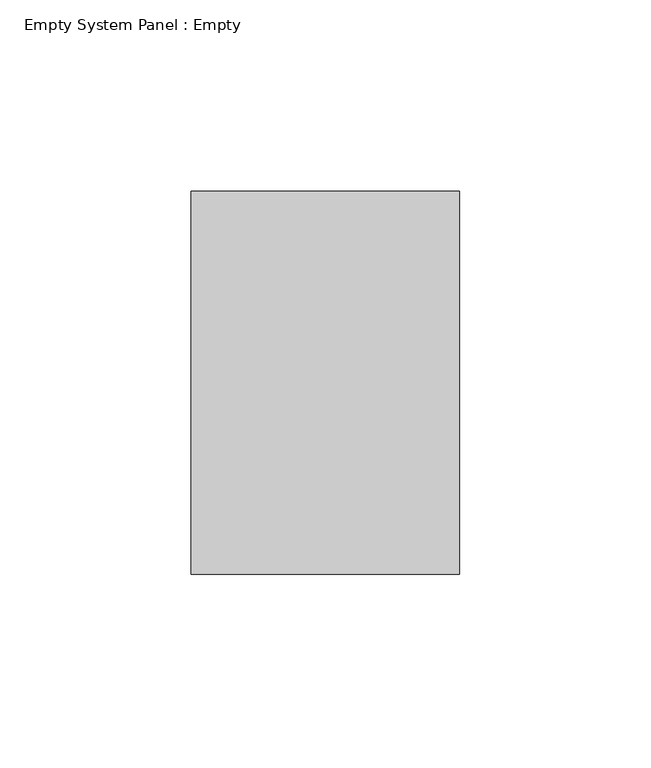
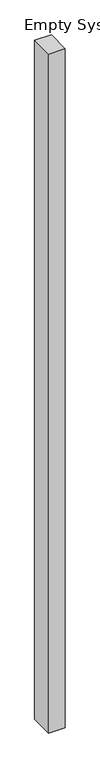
"""IFC4 building model written with IfcOpenShell, lengths in millimetres: plate geometry, Empty System Panel : Empty."""

from ifc_helpers import new_model, si_unit, origin, origin_with_axes, place, context, project, spatial, polyline, outline, extrude, source, transform, mapped, element, save


def empty_system_panel_empty_641a64b5(model_context):
    return source(origin(), model_context, "Body", "SweptSolid", [
        extrude(outline(polyline([(35.0000002, 50.0), (-35.0000002, 50.0), (-35.0000002, 150.0), (35.0000002, 150.0), (35.0000002, 50.0)])), origin_with_axes(), (0.0, 0.0, 1.0), 3000.0),
    ])


if __name__ == "__main__":
    model = new_model("IFC4")
    model_context = context("Model", 3, world=origin())
    ifc_project = project(units=[si_unit("LENGTHUNIT", "METRE", prefix="MILLI")], contexts=[model_context])
    site = spatial("IfcSite", under=ifc_project)
    building = spatial("IfcBuilding", under=site)
    placement = place(None, origin())
    empty_system_panel_empty_shape = empty_system_panel_empty_641a64b5(model_context)
    element("IfcPlate", 1, ObjectType="Empty System Panel : Empty", at=placement, inside=building, context=model_context, shape_type="MappedRepresentation", body=[
        mapped(empty_system_panel_empty_shape, transform((0.0, 0.0, 0.0), x_axis=(1.0, 0.0, 0.0), y_axis=(0.0, 1.0, 0.0), z_axis=(0.0, 0.0, 1.0))),
    ])
    save(model, "model.ifc")
